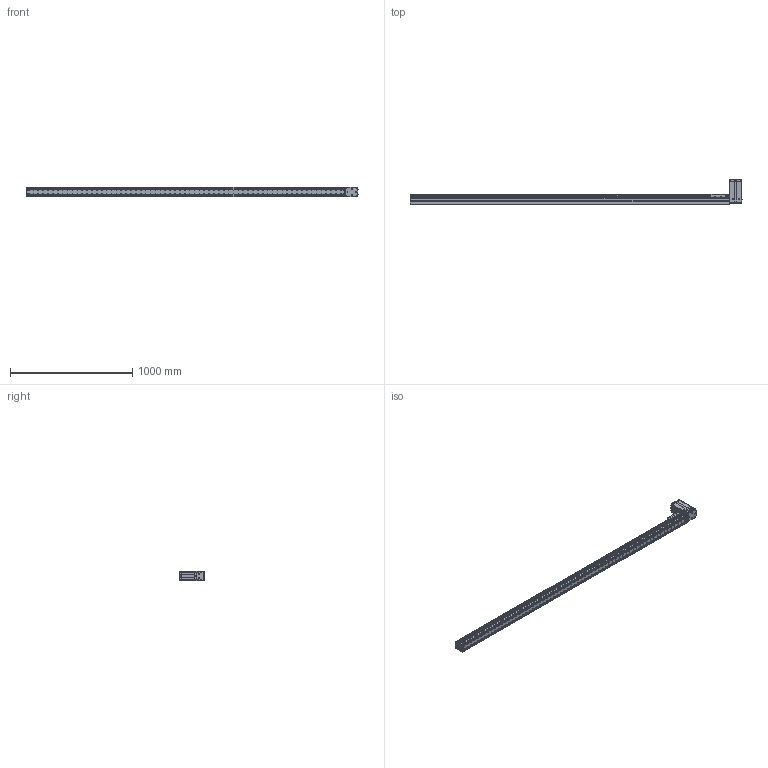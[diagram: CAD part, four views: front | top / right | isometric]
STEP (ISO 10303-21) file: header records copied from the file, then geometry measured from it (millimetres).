
FILE_DESCRIPTION((''),'2;1');
FILE_NAME('BE10_-BT-M_N-Q0_IGS_PRT','2017-06-18T',(' '),(''),'PRO/ENGINEER BY PARAMETRIC TECHNOLOGY CORPORATION, 2015030','PRO/ENGINEER BY PARAMETRIC TECHNOLOGY CORPORATION, 2015030','');
FILE_SCHEMA(('CONFIG_CONTROL_DESIGN'));
Products named in the file (1): BE10_-BT-M_N-Q0_IGS_PRT
Bounding box: 2720.8 x 204.72 x 78 mm (x, y, z)
Volume: 3477937.9 mm3; surface area: 2441644 mm2
Topology: 5 solids, 209 shells, 2516 faces, 6907 edges, 4617 vertices
Faces by surface type: cylinder 1252, plane 1101, cone 107, sphere 28, torus 25, bspline 3
Entity records: 82551 total; most frequent: CARTESIAN_POINT 16939, DIRECTION 14036, ORIENTED_EDGE 12866, EDGE_CURVE 6835, AXIS2_PLACEMENT_3D 5224, VERTEX_POINT 4612, VECTOR 3588, LINE 3588
